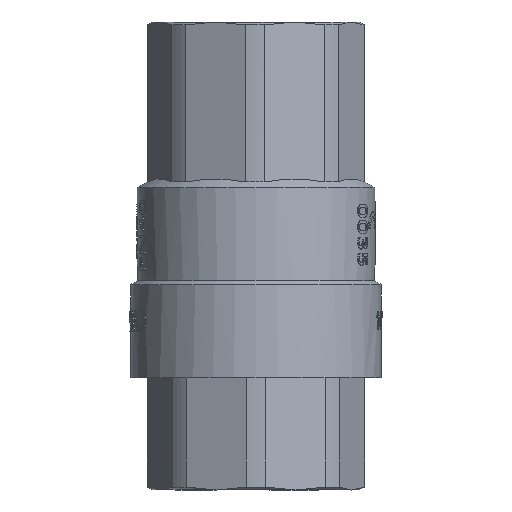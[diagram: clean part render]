
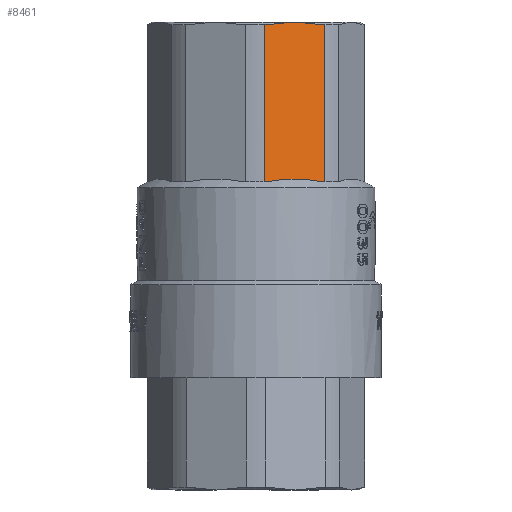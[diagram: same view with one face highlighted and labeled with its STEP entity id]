
A CAD part, front view. The second image highlights one B-rep face of the part: STEP entity #8461.
In plain terms, the highlighted planar face has unit normal (0.373, -0.928, 0).
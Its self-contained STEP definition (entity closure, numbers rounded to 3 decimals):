
#40=(
BOUNDED_CURVE()
B_SPLINE_CURVE(2,(#25147,#25148,#25149),.UNSPECIFIED.,.F.,.F.)
B_SPLINE_CURVE_WITH_KNOTS((3,3),(0.49,0.981),
 .UNSPECIFIED.)
CURVE()
GEOMETRIC_REPRESENTATION_ITEM()
RATIONAL_B_SPLINE_CURVE((1.,1.012,1.))
REPRESENTATION_ITEM('')
);
#41=(
BOUNDED_CURVE()
B_SPLINE_CURVE(2,(#25151,#25152,#25153),.UNSPECIFIED.,.F.,.F.)
B_SPLINE_CURVE_WITH_KNOTS((3,3),(0.,0.49),.UNSPECIFIED.)
CURVE()
GEOMETRIC_REPRESENTATION_ITEM()
RATIONAL_B_SPLINE_CURVE((1.,1.012,1.))
REPRESENTATION_ITEM('')
);
#42=(
BOUNDED_CURVE()
B_SPLINE_CURVE(2,(#25156,#25157,#25158,#25159),.UNSPECIFIED.,.F.,.F.)
B_SPLINE_CURVE_WITH_KNOTS((3,1,3),(17.307,17.646,24.257),
 .UNSPECIFIED.)
CURVE()
GEOMETRIC_REPRESENTATION_ITEM()
RATIONAL_B_SPLINE_CURVE((6.291,6.305,6.58,
6.291))
REPRESENTATION_ITEM('')
);
#334=PLANE('',#9005);
#1118=FACE_OUTER_BOUND('',#1656,.T.);
#1656=EDGE_LOOP('',(#7431,#7432,#7433,#7434,#7435));
#2229=LINE('',#25146,#2804);
#2230=LINE('',#25155,#2805);
#2804=VECTOR('',#10500,10.);
#2805=VECTOR('',#10501,10.);
#3269=VERTEX_POINT('',#15848);
#3961=VERTEX_POINT('',#25144);
#3962=VERTEX_POINT('',#25145);
#3963=VERTEX_POINT('',#25150);
#3964=VERTEX_POINT('',#25154);
#5142=EDGE_CURVE('',#3961,#3962,#2229,.T.);
#5143=EDGE_CURVE('',#3269,#3961,#40,.T.);
#5144=EDGE_CURVE('',#3963,#3269,#41,.T.);
#5145=EDGE_CURVE('',#3964,#3963,#2230,.T.);
#5146=EDGE_CURVE('',#3964,#3962,#42,.T.);
#7431=ORIENTED_EDGE('',*,*,#5142,.F.);
#7432=ORIENTED_EDGE('',*,*,#5143,.F.);
#7433=ORIENTED_EDGE('',*,*,#5144,.F.);
#7434=ORIENTED_EDGE('',*,*,#5145,.F.);
#7435=ORIENTED_EDGE('',*,*,#5146,.T.);
#8461=ADVANCED_FACE('',(#1118),#334,.T.);
#9005=AXIS2_PLACEMENT_3D('',#25143,#10498,#10499);
#10498=DIRECTION('center_axis',(0.373,-0.928,0.));
#10499=DIRECTION('ref_axis',(-0.928,-0.373,0.));
#10500=DIRECTION('',(0.,0.,-1.));
#10501=DIRECTION('',(0.,0.,1.));
#15848=CARTESIAN_POINT('',(5.775,-14.384,34.95));
#25143=CARTESIAN_POINT('Origin',(11.733,-11.992,34.95));
#25144=CARTESIAN_POINT('',(10.304,-12.566,34.517));
#25145=CARTESIAN_POINT('',(10.304,-12.566,11.028));
#25146=CARTESIAN_POINT('',(10.304,-12.566,22.773));
#25147=CARTESIAN_POINT('Ctrl Pts',(5.775,-14.384,34.95));
#25148=CARTESIAN_POINT('Ctrl Pts',(7.986,-13.496,34.95));
#25149=CARTESIAN_POINT('Ctrl Pts',(10.304,-12.566,34.517));
#25150=CARTESIAN_POINT('',(1.247,-16.202,34.517));
#25151=CARTESIAN_POINT('Ctrl Pts',(1.247,-16.202,34.517));
#25152=CARTESIAN_POINT('Ctrl Pts',(3.564,-15.272,34.95));
#25153=CARTESIAN_POINT('Ctrl Pts',(5.775,-14.384,34.95));
#25154=CARTESIAN_POINT('',(1.247,-16.202,11.028));
#25155=CARTESIAN_POINT('',(1.247,-16.202,22.773));
#25156=CARTESIAN_POINT('Ctrl Pts',(1.247,-16.202,11.028));
#25157=CARTESIAN_POINT('Ctrl Pts',(1.478,-16.109,11.072));
#25158=CARTESIAN_POINT('Ctrl Pts',(5.987,-14.299,11.835));
#25159=CARTESIAN_POINT('Ctrl Pts',(10.304,-12.566,11.028));
